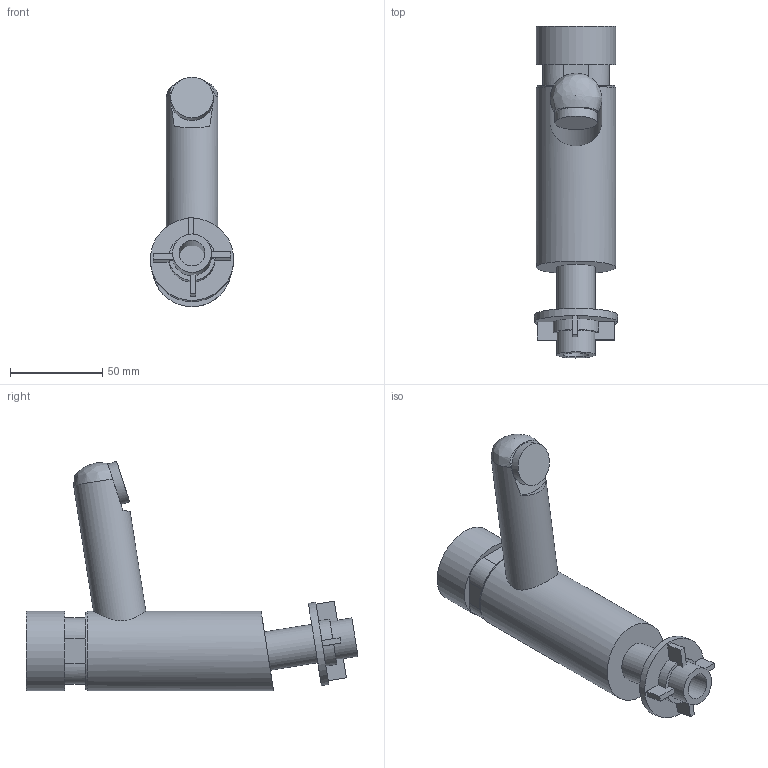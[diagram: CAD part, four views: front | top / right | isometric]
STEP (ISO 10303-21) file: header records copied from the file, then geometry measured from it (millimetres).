
FILE_DESCRIPTION(/* description */ ('TIMEPRESS - zawór czasowy umywalkowy'),/* implementation_level */ '2;1');
FILE_NAME(/* name */ 'C:\Nextcloud\02_biblioteki_cad\Valvex\Projekt\PROJECTS\Eksport\ETAP 4\2452900\2452900.stp',/* time_stamp */ '2021-08-09T10:49:27+02:00',/* author */ ('Cadventure'),/* organization */ (''),/* preprocessor_version */ 'ST-DEVELOPER v18.1',/* originating_system */ 'Autodesk Inventor 2020',/* authorisation */ '');
FILE_SCHEMA (('AUTOMOTIVE_DESIGN { 1 0 10303 214 3 1 1 }'));
Length unit declared in the file: millimetre
Products named in the file (1): 2452900
Bounding box: 45 x 179.65 x 124.22 mm (x, y, z)
Volume: 253224.1 mm3; surface area: 41330.5 mm2
Topology: 3 solids, 3 shells, 69 faces, 179 edges, 120 vertices
Faces by surface type: plane 47, cylinder 21, bspline 1
Full cylindrical faces by diameter (mm): 14 x1, 21 x1, 23 x1, 28 x1, 41.799 x1, 43 x2, 45 x1
Entity records: 2326 total; most frequent: CARTESIAN_POINT 526, DIRECTION 380, ORIENTED_EDGE 356, EDGE_CURVE 178, AXIS2_PLACEMENT_3D 138, VERTEX_POINT 120, LINE 104, VECTOR 104
